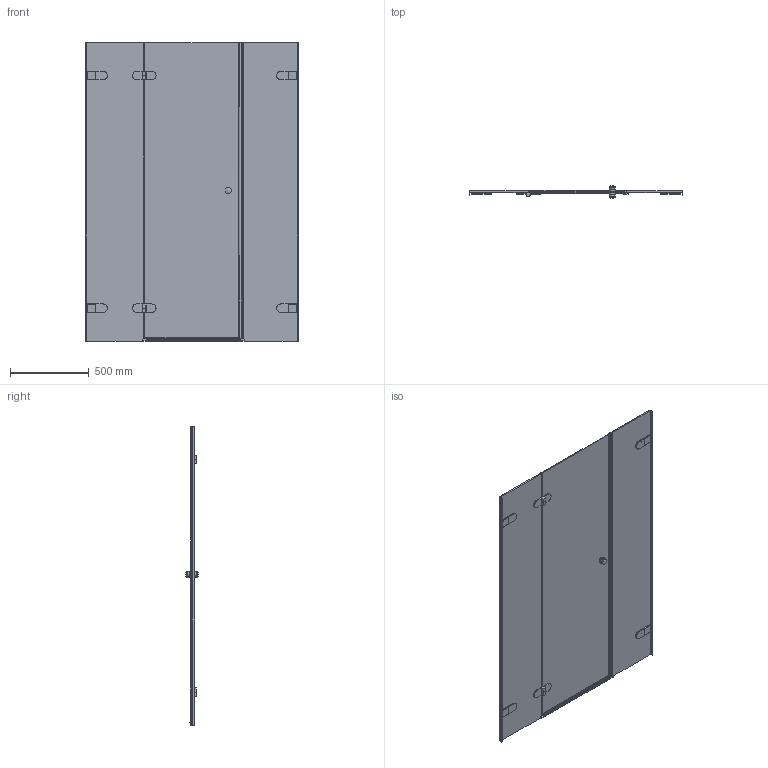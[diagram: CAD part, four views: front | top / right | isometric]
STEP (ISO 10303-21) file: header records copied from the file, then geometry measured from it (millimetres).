
FILE_DESCRIPTION(/* description */ (''),/* implementation_level */ '2;1');
FILE_NAME(/* name */ 'E:\Работа\Сергей\Душевые кабинки\! Работа\!\LUX DOOR GK-003-2522A\LUX DOOR GK-003-2522A левая модель\LUX DOOR GK-003-2522A ЛЕВАЯ-3D.stp',/* time_stamp */ '2017-10-02T19:24:51+03:00',/* author */ ('PC'),/* organization */ (''),/* preprocessor_version */ 'ST-DEVELOPER v15.2',/* originating_system */ 'Autodesk Inventor 2014',/* authorisation */ '');
FILE_SCHEMA (('AUTOMOTIVE_DESIGN { 1 0 10303 214 3 1 1 }'));
Length unit declared in the file: millimetre
Products named in the file (1): LUX DOOR GK-003-2522A ЛЕВАЯ-3D
Bounding box: 1354.72 x 80 x 1901 mm (x, y, z)
Volume: 19044783 mm3; surface area: 5601907.9 mm2
Topology: 3 solids, 3 shells, 578 faces, 1416 edges, 871 vertices
Faces by surface type: plane 427, cylinder 135, torus 12, sphere 4
Full cylindrical faces by diameter (mm): 38 x4
Entity records: 17397 total; most frequent: CARTESIAN_POINT 3040, DIRECTION 2834, ORIENTED_EDGE 2820, EDGE_CURVE 1410, LINE 1106, VECTOR 1106, VERTEX_POINT 871, AXIS2_PLACEMENT_3D 864
